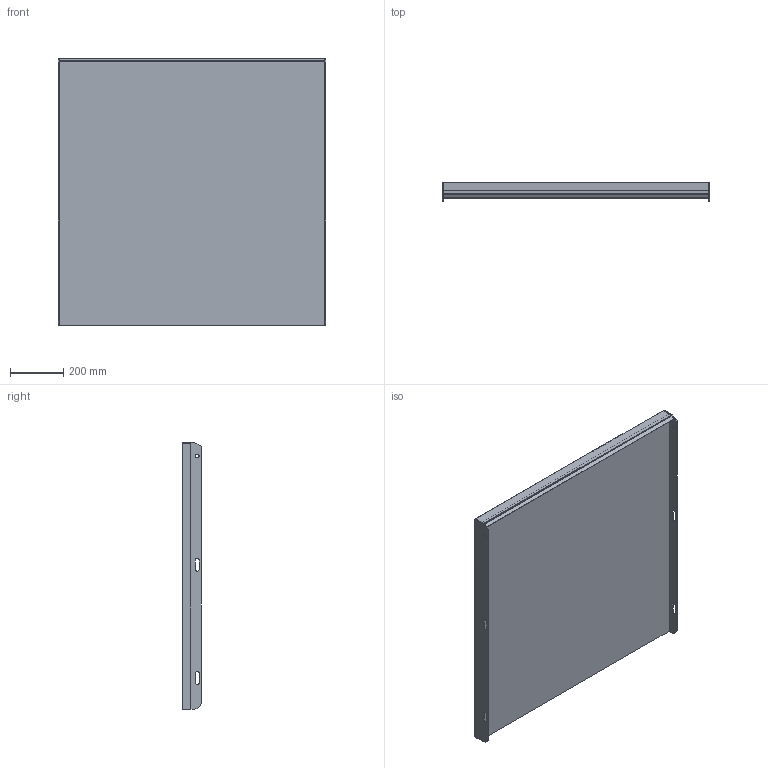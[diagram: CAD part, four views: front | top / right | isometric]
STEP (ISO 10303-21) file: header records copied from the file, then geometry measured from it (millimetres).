
FILE_DESCRIPTION (( 'STEP AP203' ), '1' );
FILE_NAME ('148810101, Plan TH6, 1000x1000, vfz.STEP', '2020-10-21T13:09:54', ( '' ), ( '' ), 'SwSTEP 2.0', 'SolidWorks 2019', '' );
FILE_SCHEMA (( 'CONFIG_CONTROL_DESIGN' ));
Length unit declared in the file: millimetre
Products named in the file (4): SW0000041751; SW0000041407; SW0000041774; 148810101, Plan TH6, 1000x1000, vfz
Assembly tree (4 placements, depth 2):
  148810101, Plan TH6, 1000x1000, vfz
    SW0000041774
    SW0000041407  x2
    SW0000041751
Bounding box: 1000 x 70 x 997 mm (x, y, z)
Volume: 30227695.5 mm3; surface area: 2507187.5 mm2
Topology: 4 solids, 4 shells, 69 faces, 172 edges, 112 vertices
Faces by surface type: plane 49, cylinder 20
Entity records: 1868 total; most frequent: DIRECTION 252, CARTESIAN_POINT 250, ORIENTED_EDGE 236, EDGE_CURVE 118, VECTOR 96, LINE 96, AXIS2_PLACEMENT_3D 78, VERTEX_POINT 76
